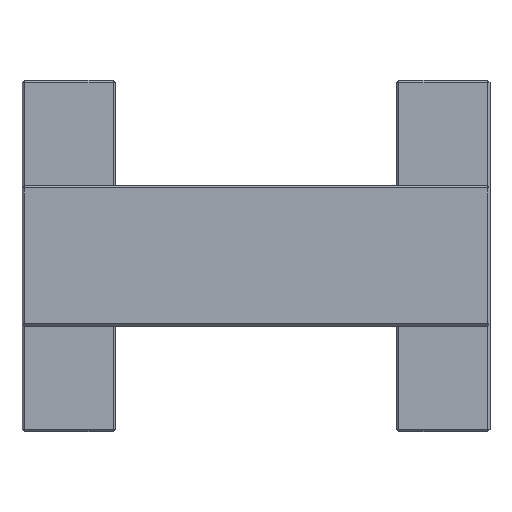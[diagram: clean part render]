
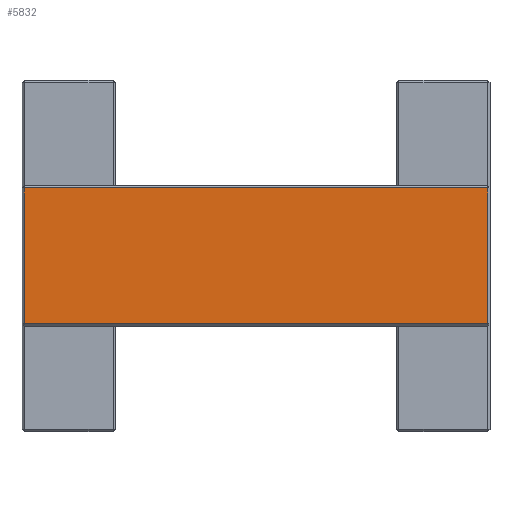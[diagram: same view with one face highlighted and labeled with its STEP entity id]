
A CAD part, top view. The second image highlights one B-rep face of the part: STEP entity #5832.
In plain terms, the highlighted planar face has unit normal (0, 0, 1).
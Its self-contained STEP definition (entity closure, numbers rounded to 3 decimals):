
#5123 = PLANE('',#5124);
#5124 = AXIS2_PLACEMENT_3D('',#5125,#5126,#5127);
#5125 = CARTESIAN_POINT('',(1.,90.,89.));
#5126 = DIRECTION('',(0.707,0.,-0.707));
#5127 = DIRECTION('',(0.,1.,0.));
#5462 = VERTEX_POINT('',#5463);
#5463 = CARTESIAN_POINT('',(2.,208.,90.));
#5484 = EDGE_CURVE('',#5485,#5462,#5487,.T.);
#5485 = VERTEX_POINT('',#5486);
#5486 = CARTESIAN_POINT('',(2.,92.,90.));
#5487 = SURFACE_CURVE('',#5488,(#5492,#5499),.PCURVE_S1.);
#5488 = LINE('',#5489,#5490);
#5489 = CARTESIAN_POINT('',(2.,90.,90.));
#5490 = VECTOR('',#5491,1.);
#5491 = DIRECTION('',(0.,1.,0.));
#5492 = PCURVE('',#5123,#5493);
#5493 = DEFINITIONAL_REPRESENTATION('',(#5494),#5498);
#5494 = LINE('',#5495,#5496);
#5495 = CARTESIAN_POINT('',(0.,1.414));
#5496 = VECTOR('',#5497,1.);
#5497 = DIRECTION('',(1.,0.));
#5498 = ( GEOMETRIC_REPRESENTATION_CONTEXT(2) 
PARAMETRIC_REPRESENTATION_CONTEXT() REPRESENTATION_CONTEXT('2D SPACE',''
  ) );
#5499 = PCURVE('',#5500,#5505);
#5500 = PLANE('',#5501);
#5501 = AXIS2_PLACEMENT_3D('',#5502,#5503,#5504);
#5502 = CARTESIAN_POINT('',(0.,90.,90.));
#5503 = DIRECTION('',(0.,0.,1.));
#5504 = DIRECTION('',(1.,0.,0.));
#5505 = DEFINITIONAL_REPRESENTATION('',(#5506),#5510);
#5506 = LINE('',#5507,#5508);
#5507 = CARTESIAN_POINT('',(2.,0.));
#5508 = VECTOR('',#5509,1.);
#5509 = DIRECTION('',(0.,1.));
#5510 = ( GEOMETRIC_REPRESENTATION_CONTEXT(2) 
PARAMETRIC_REPRESENTATION_CONTEXT() REPRESENTATION_CONTEXT('2D SPACE',''
  ) );
#5554 = PLANE('',#5555);
#5555 = AXIS2_PLACEMENT_3D('',#5556,#5557,#5558);
#5556 = CARTESIAN_POINT('',(0.,91.,89.));
#5557 = DIRECTION('',(0.,0.707,-0.707));
#5558 = DIRECTION('',(-1.,-0.,-0.));
#5608 = PLANE('',#5609);
#5609 = AXIS2_PLACEMENT_3D('',#5610,#5611,#5612);
#5610 = CARTESIAN_POINT('',(0.,209.,89.));
#5611 = DIRECTION('',(0.,0.707,0.707));
#5612 = DIRECTION('',(-1.,-0.,0.));
#5768 = PLANE('',#5769);
#5769 = AXIS2_PLACEMENT_3D('',#5770,#5771,#5772);
#5770 = CARTESIAN_POINT('',(399.,90.,89.));
#5771 = DIRECTION('',(0.707,0.,0.707));
#5772 = DIRECTION('',(-0.,1.,0.));
#5832 = ADVANCED_FACE('',(#5833),#5500,.T.);
#5833 = FACE_BOUND('',#5834,.T.);
#5834 = EDGE_LOOP('',(#5835,#5836,#5859,#5882));
#5835 = ORIENTED_EDGE('',*,*,#5484,.F.);
#5836 = ORIENTED_EDGE('',*,*,#5837,.T.);
#5837 = EDGE_CURVE('',#5485,#5838,#5840,.T.);
#5838 = VERTEX_POINT('',#5839);
#5839 = CARTESIAN_POINT('',(398.,92.,90.));
#5840 = SURFACE_CURVE('',#5841,(#5845,#5852),.PCURVE_S1.);
#5841 = LINE('',#5842,#5843);
#5842 = CARTESIAN_POINT('',(0.,92.,90.));
#5843 = VECTOR('',#5844,1.);
#5844 = DIRECTION('',(1.,0.,0.));
#5845 = PCURVE('',#5500,#5846);
#5846 = DEFINITIONAL_REPRESENTATION('',(#5847),#5851);
#5847 = LINE('',#5848,#5849);
#5848 = CARTESIAN_POINT('',(0.,2.));
#5849 = VECTOR('',#5850,1.);
#5850 = DIRECTION('',(1.,0.));
#5851 = ( GEOMETRIC_REPRESENTATION_CONTEXT(2) 
PARAMETRIC_REPRESENTATION_CONTEXT() REPRESENTATION_CONTEXT('2D SPACE',''
  ) );
#5852 = PCURVE('',#5554,#5853);
#5853 = DEFINITIONAL_REPRESENTATION('',(#5854),#5858);
#5854 = LINE('',#5855,#5856);
#5855 = CARTESIAN_POINT('',(-0.,1.414));
#5856 = VECTOR('',#5857,1.);
#5857 = DIRECTION('',(-1.,0.));
#5858 = ( GEOMETRIC_REPRESENTATION_CONTEXT(2) 
PARAMETRIC_REPRESENTATION_CONTEXT() REPRESENTATION_CONTEXT('2D SPACE',''
  ) );
#5859 = ORIENTED_EDGE('',*,*,#5860,.T.);
#5860 = EDGE_CURVE('',#5838,#5861,#5863,.T.);
#5861 = VERTEX_POINT('',#5862);
#5862 = CARTESIAN_POINT('',(398.,208.,90.));
#5863 = SURFACE_CURVE('',#5864,(#5868,#5875),.PCURVE_S1.);
#5864 = LINE('',#5865,#5866);
#5865 = CARTESIAN_POINT('',(398.,90.,90.));
#5866 = VECTOR('',#5867,1.);
#5867 = DIRECTION('',(0.,1.,0.));
#5868 = PCURVE('',#5500,#5869);
#5869 = DEFINITIONAL_REPRESENTATION('',(#5870),#5874);
#5870 = LINE('',#5871,#5872);
#5871 = CARTESIAN_POINT('',(398.,0.));
#5872 = VECTOR('',#5873,1.);
#5873 = DIRECTION('',(0.,1.));
#5874 = ( GEOMETRIC_REPRESENTATION_CONTEXT(2) 
PARAMETRIC_REPRESENTATION_CONTEXT() REPRESENTATION_CONTEXT('2D SPACE',''
  ) );
#5875 = PCURVE('',#5768,#5876);
#5876 = DEFINITIONAL_REPRESENTATION('',(#5877),#5881);
#5877 = LINE('',#5878,#5879);
#5878 = CARTESIAN_POINT('',(0.,1.414));
#5879 = VECTOR('',#5880,1.);
#5880 = DIRECTION('',(1.,0.));
#5881 = ( GEOMETRIC_REPRESENTATION_CONTEXT(2) 
PARAMETRIC_REPRESENTATION_CONTEXT() REPRESENTATION_CONTEXT('2D SPACE',''
  ) );
#5882 = ORIENTED_EDGE('',*,*,#5883,.F.);
#5883 = EDGE_CURVE('',#5462,#5861,#5884,.T.);
#5884 = SURFACE_CURVE('',#5885,(#5889,#5896),.PCURVE_S1.);
#5885 = LINE('',#5886,#5887);
#5886 = CARTESIAN_POINT('',(0.,208.,90.));
#5887 = VECTOR('',#5888,1.);
#5888 = DIRECTION('',(1.,0.,0.));
#5889 = PCURVE('',#5500,#5890);
#5890 = DEFINITIONAL_REPRESENTATION('',(#5891),#5895);
#5891 = LINE('',#5892,#5893);
#5892 = CARTESIAN_POINT('',(0.,118.));
#5893 = VECTOR('',#5894,1.);
#5894 = DIRECTION('',(1.,0.));
#5895 = ( GEOMETRIC_REPRESENTATION_CONTEXT(2) 
PARAMETRIC_REPRESENTATION_CONTEXT() REPRESENTATION_CONTEXT('2D SPACE',''
  ) );
#5896 = PCURVE('',#5608,#5897);
#5897 = DEFINITIONAL_REPRESENTATION('',(#5898),#5902);
#5898 = LINE('',#5899,#5900);
#5899 = CARTESIAN_POINT('',(-0.,1.414));
#5900 = VECTOR('',#5901,1.);
#5901 = DIRECTION('',(-1.,0.));
#5902 = ( GEOMETRIC_REPRESENTATION_CONTEXT(2) 
PARAMETRIC_REPRESENTATION_CONTEXT() REPRESENTATION_CONTEXT('2D SPACE',''
  ) );
